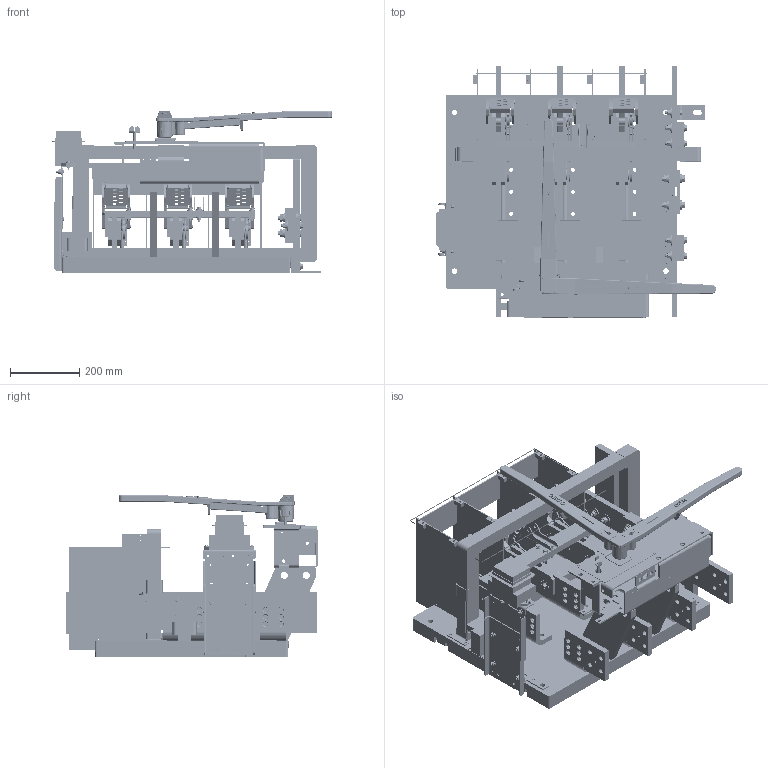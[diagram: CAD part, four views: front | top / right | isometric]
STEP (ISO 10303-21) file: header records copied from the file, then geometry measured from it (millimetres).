
FILE_DESCRIPTION(/* description */ (''),/* implementation_level */ '2;1');
FILE_NAME(/* name */ 'H:\switches\3d-templates\catalog-switches-iges-files\CATALOG-VL3611G6.stp',/* time_stamp */ '2022-03-23T15:11:23-05:00',/* author */ ('MKingston'),/* organization */ (''),/* preprocessor_version */ 'ST-DEVELOPER v18.1',/* originating_system */ 'Autodesk Inventor 2022',/* authorisation */ '');
FILE_SCHEMA (('AUTOMOTIVE_DESIGN { 1 0 10303 214 3 1 1 }'));
Products named in the file (91): CATALOG-VL3611; 277; 670-D; 670-c; 670-E; CATALOG-2500amp-blade-assy; 67-fc3; 69-gc3; 670-AR; 670-AL; 70-M; 67-H; 67-j; ANSI/ASME B18.7 - T 0.252 x 17/32; ANSI/ASME B18.7 - T 0.188 x 17/32; 235-b; 230-a; CATALOG-58-qd-arc-chute-assy; 50-ql; 50-qr; 363-a; 363-b; 58-QG; ANSI B18.6.3 - No. 8 - 32 - 5/8; ANSI B18.6.3 - No. 8 - 32 - 1/2; ANSI B18.6.3 - No. 8 - 32 - 3; 255-z; 246-a; 255-bha; 255-c; 178-c; 178-b; 2500-VL-NEUTRAL; 675-a; 675-ff; 676-k; 677-e; 678-r; 675-ba; Bolted Connection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
Assembly tree (234 placements, depth 4):
  CATALOG-VL3611
    277
    670-D  x3
    670-c  x3
    670-E  x3
    CATALOG-2500amp-blade-assy  x3
      67-fc3
      69-gc3
      67-j
      670-AR
      670-AL
      70-M
      67-H
      ANSI/ASME B18.7 - T 0.252 x 17/32
      ANSI/ASME B18.7 - T 0.188 x 17/32
    235-b
    230-a
    CATALOG-58-qd-arc-chute-assy  x3
      50-ql
      50-qr
      363-a
      363-b
      58-QG
      ANSI B18.6.3 - No. 8 - 32 - 5/8
      ANSI B18.6.3 - No. 8 - 32 - 1/2
      ANSI B18.6.3 - No. 8 - 32 - 3
    255-bha  x4
    255-z
    246-a  x2
    255-c
    178-c  x8
    178-b  x8
    2500-VL-NEUTRAL
      675-a
      675-ff  x2
      676-k  x4
      677-e  x2
      678-r
      675-ba
      Bolted Connection
        ASTM F436 - 1/2, CW  x8
        ANSI B18.2.1 - 1/2-13 UNC - 2.25, HCSI  x4
        ASME B18.21.1 - 1/2, RHSLW  x4
        AS 2465 - 1/2  UNC  x4
      Bolted Connection_1
        ASTM F436 - 3/8, CW  x4
        ANSI B18.2.1 - 3/8-16 UNC - 2.25, HCSI  x4
        ANSI B18.22.1 - 3/8 - wide - Type B  x4
        ANSI B18.21.1 - 0.375  x4
        ANSI B18.2.2 - 3/8 - 16, HNI  x4
      Bolted Connection_2
        ASTM F436 - 3/8, CW
        ANSI B18.2.1 - 3/8-16 UNC - 1.75, HCSI
        ANSI B18.22.1 - 3/8 - wide - Type B
        ANSI B18.21.1 - 0.375
        ANSI B18.2.2 - 3/8 - 16, HNI
    221-kpa
    452
    481-a
    gfi-ring-assembly
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Bounding box: 807.1 x 725.27 x 466.29 mm (x, y, z)
Volume: 23532041.9 mm3; surface area: 5158678.9 mm2
Topology: 275 solids, 276 shells, 7858 faces, 19615 edges, 12646 vertices
Faces by surface type: plane 3805, cylinder 2513, cone 1159, torus 196, bspline 150, sphere 35
Full cylindrical faces by diameter (mm): 1.702 x8, 3.175 x4, 3.302 x26, 3.581 x2, 3.683 x8, 3.962 x11, 4.089 x4, 4.166 x15, 4.366 x2, 4.496 x24, 4.653 x4, 4.762 x46, 4.775 x11, 4.801 x8, 4.826 x2, 4.902 x14, 4.915 x24, 4.953 x4, 4.978 x17, 5.462 x4, 5.537 x3, 5.556 x5, 5.563 x4, 5.791 x6, 6.35 x22, 6.401 x9, 6.528 x54, 6.604 x8, 7.137 x18, 7.144 x20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
Entity records: 126150 total; most frequent: CARTESIAN_POINT 30958, DIRECTION 19494, ORIENTED_EDGE 18614, EDGE_CURVE 9315, AXIS2_PLACEMENT_3D 7092, VERTEX_POINT 6014, LINE 5310, VECTOR 5310
